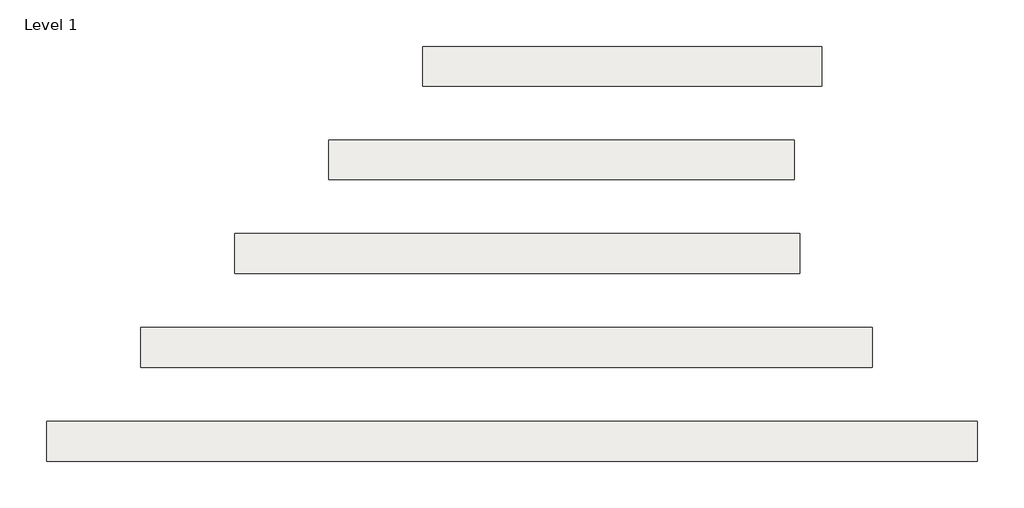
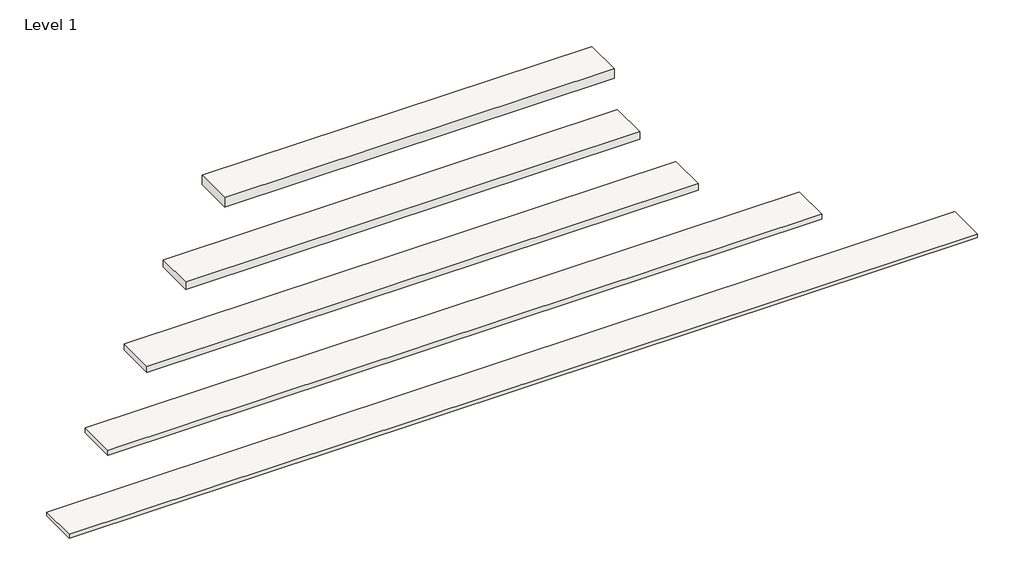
# One storey: 5 roofs.
"""IFC4 building model written with IfcOpenShell, lengths in millimetres."""

from ifc_helpers import new_model, si_unit, origin, origin_with_axes, place, context, project, spatial, polyline, outline, extrude, element, save

model = new_model("IFC4")

# Units and contexts
model_context = context("Model", 3, world=origin())
ifc_project = project(units=[si_unit("LENGTHUNIT", "METRE", prefix="MILLI")], contexts=[model_context])

# Site, building, storey
site = spatial("IfcSite", under=ifc_project)
building = spatial("IfcBuilding", under=site)
storey = spatial("IfcBuildingStorey", under=building, Name="Level 1", Elevation=0.0)

# Roofs
placement = place(None, origin())
element("IfcRoof", 1, ObjectType="NLRS_27_RO_TR 312_60x600x14000mm", at=placement, inside=storey, context=model_context, shape_type="SweptSolid", body=[
    extrude(outline(polyline([(900.872818, 2455.361596), (14900.872818, 2455.361596), (14900.872818, 1855.361596), (900.872818, 1855.361596), (900.872818, 2455.361596)])), origin_with_axes(), (0.0, 0.0, 1.0), 60.0),
])
element("IfcRoof", 2, ObjectType="NLRS_27_RO_TR 312_80x600x11000mm", at=placement, inside=storey, context=model_context, shape_type="SweptSolid", body=[
    extrude(outline(polyline([(2315.0863803, 3867.0751584), (13315.0863803, 3867.0751584), (13315.0863803, 3267.0751584), (2315.0863803, 3267.0751584), (2315.0863803, 3867.0751584)])), origin_with_axes(), (0.0, 0.0, 1.0), 80.0),
])
element("IfcRoof", 3, ObjectType="NLRS_27_RO_TR 312_100x600x8500mm", at=placement, inside=storey, context=model_context, shape_type="SweptSolid", body=[
    extrude(outline(polyline([(3729.2999427, 5278.7887208), (12229.2999427, 5278.7887208), (12229.2999427, 4678.7887208), (3729.2999427, 4678.7887208), (3729.2999427, 5278.7887208)])), origin_with_axes(), (0.0, 0.0, 1.0), 100.0),
])
element("IfcRoof", 4, ObjectType="NLRS_27_RO_TR 312_120x600x7000mm", at=placement, inside=storey, context=model_context, shape_type="SweptSolid", body=[
    extrude(outline(polyline([(5143.5135051, 6690.5022831), (12143.5135051, 6690.5022831), (12143.5135051, 6090.5022831), (5143.5135051, 6090.5022831), (5143.5135051, 6690.5022831)])), origin_with_axes(), (0.0, 0.0, 1.0), 120.0),
])
element("IfcRoof", 5, ObjectType="NLRS_27_RO_TR 312_150X600X6000mm", at=placement, inside=storey, context=model_context, shape_type="SweptSolid", body=[
    extrude(outline(polyline([(6557.7270674, 8097.2158455), (12557.7270674, 8097.2158455), (12557.7270674, 7497.2158455), (6557.7270674, 7497.2158455), (6557.7270674, 8097.2158455)])), origin_with_axes(), (0.0, 0.0, 1.0), 150.0),
])

save(model, "model.ifc")
